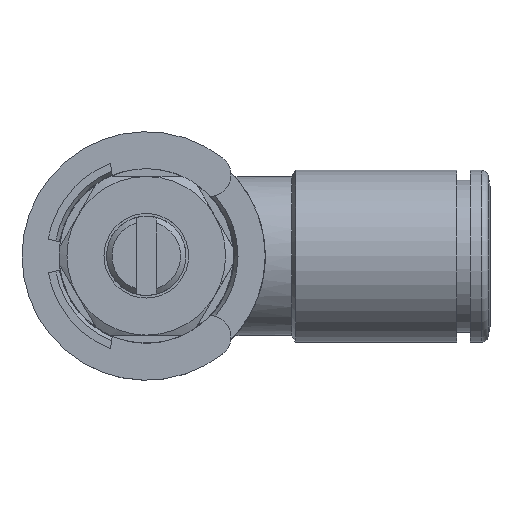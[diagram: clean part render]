
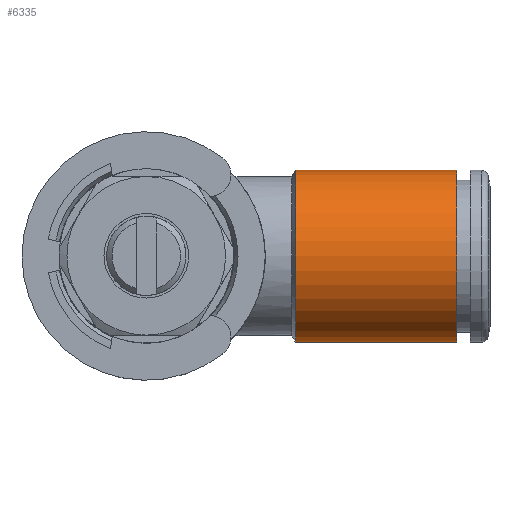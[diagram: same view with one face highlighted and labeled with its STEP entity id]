
A CAD part, top view. The second image highlights one B-rep face of the part: STEP entity #6335.
In plain terms, the highlighted cylindrical face has radius 6.5 mm (diameter 13 mm), a full revolution.
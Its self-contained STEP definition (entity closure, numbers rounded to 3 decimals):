
#2397=ORIENTED_EDGE('',*,*,#2983,.T.);
#2398=ORIENTED_EDGE('',*,*,#2984,.F.);
#2677=CIRCLE('',#6067,6.5);
#2678=CIRCLE('',#6069,6.5);
#2814=VERTEX_POINT('',#5669);
#2815=VERTEX_POINT('',#5672);
#2983=EDGE_CURVE('',#2814,#2814,#2677,.T.);
#2984=EDGE_CURVE('',#2815,#2815,#2678,.T.);
#3184=EDGE_LOOP('',(#2397));
#3185=EDGE_LOOP('',(#2398));
#3398=FACE_BOUND('',#3184,.T.);
#3399=FACE_BOUND('',#3185,.T.);
#3762=DIRECTION('',(0.,1.,0.));
#3763=DIRECTION('',(0.,0.,6.5));
#3764=DIRECTION('',(0.,-1.,0.));
#3765=DIRECTION('',(1.,0.,0.));
#3766=DIRECTION('',(0.,1.,0.));
#3767=DIRECTION('',(6.5,0.,0.));
#5669=CARTESIAN_POINT('',(-3.588,-25.243,6.5));
#5670=CARTESIAN_POINT('',(-3.588,-25.243,0.));
#5671=CARTESIAN_POINT('',(-3.588,-13.031,0.));
#5672=CARTESIAN_POINT('',(2.912,-13.031,0.));
#5673=CARTESIAN_POINT('',(-3.588,-13.031,0.));
#6067=AXIS2_PLACEMENT_3D('',#5670,#3762,#3763);
#6068=AXIS2_PLACEMENT_3D('',#5671,#3764,#3765);
#6069=AXIS2_PLACEMENT_3D('',#5673,#3766,#3767);
#6264=CYLINDRICAL_SURFACE('',#6068,6.5);
#6335=ADVANCED_FACE('',(#3398,#3399),#6264,.T.);
